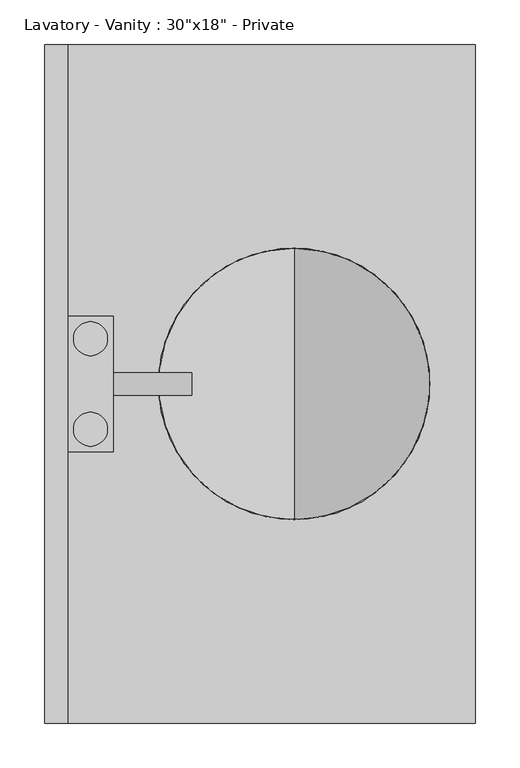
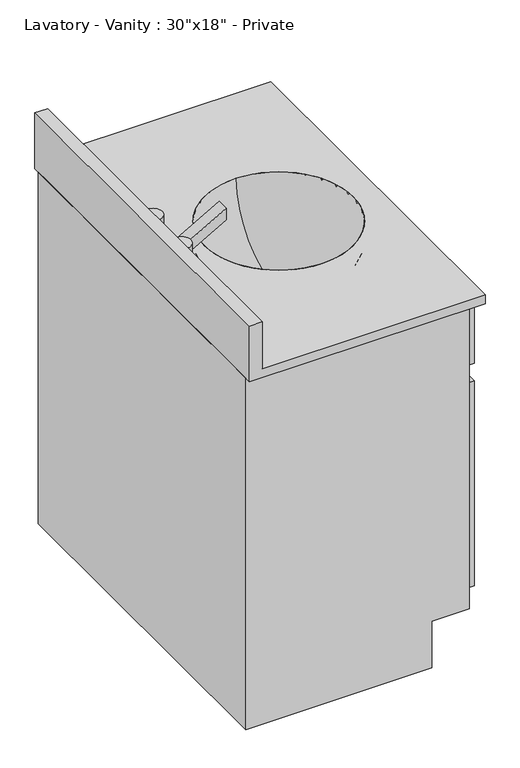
"""IFC4 building model written with IfcOpenShell, lengths in millimetres: flow terminal geometry."""

from ifc_helpers import new_model, si_unit, point, frame, origin, place, context, project, spatial, polyline, circle_curve, ellipse_curve, trimmed, faceted_brep, source, transform, mapped, element, save
from ifc_brep_helpers import plane_surface, cylinder_surface, revolved_surface, advanced_brep


def flow_terminal_0fc377b3(model_context):
    return source(origin(), model_context, "Body", "SolidModel", [
        advanced_brep(
        [(32.54375, -50.8, 844.55), (70.64375, -50.8, 844.55), (32.54375, 50.8, 844.55), (70.64375, 50.8, 844.55), (70.64375, -50.8, 806.45), (32.54375, -50.8, 806.45), (70.64375, 50.8, 806.45), (32.54375, 50.8, 806.45), (76.99375, -76.2, 806.45), (76.99375, -12.7, 806.45), (76.99375, 12.7, 806.45), (76.99375, 76.2, 806.45), (26.19375, 76.2, 806.45), (26.19375, -76.2, 806.45), (76.99375, 76.2, 781.05), (76.99375, 12.7, 781.05), (76.99375, -12.7, 781.05), (76.99375, -76.2, 781.05), (26.19375, -76.2, 781.05), (26.19375, 76.2, 781.05), (165.1, 12.7, 857.25), (165.1, 12.7, 831.85), (165.1, -12.7, 831.85), (165.1, -12.7, 857.25)],
        [
            (0, 1, circle_curve(frame((51.59375, -50.8, 844.55), z_axis=(0.0, 0.0, 1.0), x_axis=(1.0, 0.0, 0.0)), 19.05)),
            (1, 0, circle_curve(frame((51.59375, -50.8, 844.55), z_axis=(0.0, 0.0, 1.0), x_axis=(1.0, 0.0, 0.0)), 19.05)),
            (2, 3, circle_curve(frame((51.59375, 50.8, 844.55), z_axis=(0.0, 0.0, 1.0), x_axis=(1.0, 0.0, 0.0)), 19.05)),
            (3, 2, circle_curve(frame((51.59375, 50.8, 844.55), z_axis=(0.0, 0.0, 1.0), x_axis=(1.0, 0.0, 0.0)), 19.05)),
            (1, 4),
            (4, 5, circle_curve(frame((51.59375, -50.8, 806.45), z_axis=(0.0, 0.0, 1.0), x_axis=(1.0, 0.0, 0.0)), 19.05)),
            (5, 0),
            (5, 4, circle_curve(frame((51.59375, -50.8, 806.45), z_axis=(0.0, 0.0, 1.0), x_axis=(1.0, 0.0, 0.0)), 19.05)),
            (3, 6),
            (6, 7, circle_curve(frame((51.59375, 50.8, 806.45), z_axis=(0.0, 0.0, 1.0), x_axis=(1.0, 0.0, 0.0)), 19.05)),
            (7, 2),
            (7, 6, circle_curve(frame((51.59375, 50.8, 806.45), z_axis=(0.0, 0.0, 1.0), x_axis=(1.0, 0.0, 0.0)), 19.05)),
            (8, 9),
            (9, 10),
            (10, 11),
            (11, 12),
            (12, 13),
            (13, 8),
            (14, 15),
            (15, 16),
            (16, 17),
            (17, 18),
            (18, 19),
            (19, 14),
            (13, 18),
            (17, 8),
            (12, 19),
            (11, 14),
            (10, 15),
            (16, 9),
            (10, 20),
            (20, 21),
            (21, 15),
            (16, 22),
            (22, 23),
            (23, 9),
            (21, 22),
            (20, 23),
        ],
        [
            plane_surface(frame((70.64375, -50.8, 844.55), z_axis=(0.0, 0.0, 1.0), x_axis=(0.0, -1.0, 0.0))),
            cylinder_surface(frame((51.59375, -50.8, 806.45), z_axis=(0.0, 0.0, 1.0), x_axis=(1.0, 0.0, 0.0)), 19.05),
            cylinder_surface(frame((51.59375, 50.8, 0.0), z_axis=(0.0, 0.0, 1.0), x_axis=(1.0, 0.0, 0.0)), 19.05),
            plane_surface(frame((26.19375, -76.2, 806.45), z_axis=(0.0, 0.0, 1.0), x_axis=(-1.0, 0.0, 0.0))),
            plane_surface(frame((26.19375, -76.2, 781.05), z_axis=(0.0, 0.0, -1.0), x_axis=(1.0, 0.0, 0.0))),
            plane_surface(frame((76.99375, -76.2, 806.45), z_axis=(0.0, -1.0, 0.0), x_axis=(0.0, 0.0, -1.0))),
            plane_surface(frame((26.19375, -76.2, 806.45), z_axis=(-1.0, 0.0, 0.0), x_axis=(0.0, 0.0, -1.0))),
            plane_surface(frame((26.19375, 76.2, 806.45), z_axis=(0.0, 1.0, 0.0), x_axis=(0.0, 0.0, -1.0))),
            plane_surface(frame((76.99375, 76.2, 806.45), z_axis=(1.0, 0.0, 0.0), x_axis=(0.0, 0.0, -1.0))),
            plane_surface(frame((76.99375, 12.7, 806.45), z_axis=(0.0, 1.0, 0.0), x_axis=(0.0, 0.0, -1.0))),
            plane_surface(frame((76.99375, -12.7, 806.45), z_axis=(0.0, -1.0, 0.0), x_axis=(0.0, 0.0, 1.0))),
            plane_surface(frame((76.99375, 12.7, 781.05), z_axis=(0.4994972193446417, 0.0, -0.8663154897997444), x_axis=(0.0, -1.0, 0.0))),
            plane_surface(frame((165.1, 12.7, 831.85), z_axis=(1.0, 0.0, 0.0), x_axis=(0.0, -1.0, 0.0))),
            plane_surface(frame((165.1, 12.7, 857.25), z_axis=(-0.4994972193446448, 0.0, 0.8663154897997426), x_axis=(0.0, -1.0, 0.0))),
        ],
        [
            (0, [[1, 2]]),
            (0, [[3, 4]]),
            (1, [[5, 6, 7, -2]]),
            (1, [[-7, 8, -5, -1]]),
            (2, [[9, 10, 11, -4]]),
            (2, [[-11, 12, -9, -3]]),
            (3, [[13, 14, 15, 16, 17, 18], [-8, -6], [-12, -10]]),
            (4, [[19, 20, 21, 22, 23, 24]]),
            (5, [[25, -22, 26, -18]]),
            (6, [[27, -23, -25, -17]]),
            (7, [[28, -24, -27, -16]]),
            (8, [[-15, 29, -19, -28]]),
            (8, [[-21, 30, -13, -26]]),
            (9, [[-29, 31, 32, 33]]),
            (10, [[-30, 34, 35, 36]]),
            (11, [[37, -34, -20, -33]]),
            (12, [[38, -35, -37, -32]]),
            (13, [[-14, -36, -38, -31]]),
        ],
    ),
        faceted_brep([(381.79375, -368.3, 0.0), (0.0, -368.3, 0.0), (0.0, 368.3, 0.0), (381.79375, 368.3, 0.0), (381.79375, -368.3, 101.6), (457.99375, -368.3, 101.6), (457.99375, -368.3, 762.0), (0.0, -368.3, 762.0), (0.0, 368.3, 762.0), (457.99375, 368.3, 762.0), (457.99375, 368.3, 101.6), (381.79375, 368.3, 101.6), (26.19375, -342.9, 762.0), (26.19375, 342.9, 762.0), (445.29375, 342.9, 762.0), (445.29375, -342.9, 762.0), (457.99375, 342.9, 736.6), (457.99375, 342.9, 609.6), (457.99375, -342.9, 609.6), (457.99375, -342.9, 736.6), (457.99375, 342.9, 571.5), (457.99375, 342.9, 368.3), (457.99375, 88.9, 368.3), (457.99375, 88.9, 571.5), (457.99375, 342.9, 330.2), (457.99375, 342.9, 127.0), (457.99375, 88.9, 127.0), (457.99375, 88.9, 330.2), (457.99375, 50.8, 571.5), (457.99375, 50.8, 127.0), (457.99375, -342.9, 127.0), (457.99375, -342.9, 571.5), (445.29375, -342.9, 368.3), (445.29375, 342.9, 368.3), (26.19375, 342.9, 368.3), (26.19375, -342.9, 368.3), (483.39375, -342.9, 736.6), (483.39375, -342.9, 609.6), (483.39375, 342.9, 609.6), (483.39375, 342.9, 736.6), (483.39375, 88.9, 571.5), (483.39375, 88.9, 368.3), (483.39375, 342.9, 368.3), (483.39375, 342.9, 571.5), (483.39375, 88.9, 330.2), (483.39375, 88.9, 127.0), (483.39375, 342.9, 127.0), (483.39375, 342.9, 330.2), (483.39375, -342.9, 571.5), (483.39375, -342.9, 127.0), (483.39375, 50.8, 127.0), (483.39375, 50.8, 571.5)], [[[0, 1, 2, 3]], [[0, 4, 5, 6, 7, 1]], [[1, 7, 8, 2]], [[2, 8, 9, 10, 11, 3]], [[3, 11, 4, 0]], [[6, 9, 8, 7], [12, 13, 14, 15]], [[5, 4, 11, 10]], [[6, 5, 10, 9], [16, 17, 18, 19], [20, 21, 22, 23], [24, 25, 26, 27], [28, 29, 30, 31]], [[32, 33, 34, 35]], [[35, 12, 15, 32]], [[34, 13, 12, 35]], [[33, 14, 13, 34]], [[32, 15, 14, 33]], [[36, 37, 38, 39]], [[40, 41, 42, 43]], [[44, 45, 46, 47]], [[48, 49, 50, 51]], [[39, 16, 19, 36]], [[38, 17, 16, 39]], [[37, 18, 17, 38]], [[36, 19, 18, 37]], [[43, 20, 23, 40]], [[42, 21, 20, 43]], [[41, 22, 21, 42]], [[40, 23, 22, 41]], [[47, 24, 27, 44]], [[46, 25, 24, 47]], [[45, 26, 25, 46]], [[44, 27, 26, 45]], [[51, 28, 31, 48]], [[50, 29, 28, 51]], [[49, 30, 29, 50]], [[48, 31, 30, 49]]]),
        advanced_brep(
        [(280.19375, 0.0, 628.65), (280.19375, 152.4, 781.05), (280.19375, -152.4, 781.05), (280.19375, 44.45, 628.65), (280.19375, 0.0, 628.65), (280.19375, -44.45, 628.65), (280.19375, 157.6028553, 762.0), (280.19375, -157.6028553, 762.0)],
        [
            (0, 1, circle_curve(frame((280.19375, 0.0, 781.05), z_axis=(1.0, 0.0, 0.0), x_axis=(0.0, 1.0, 0.0)), 152.4)),
            (1, 2, circle_curve(frame((280.19375, 0.0, 781.05), z_axis=(0.0, 0.0, 1.0), x_axis=(0.0, -1.0, 0.0)), 152.4)),
            (2, 0, circle_curve(frame((280.19375, 0.0, 781.05), z_axis=(1.0, 0.0, 0.0), x_axis=(0.0, -1.0, 0.0)), 152.4)),
            (2, 1, circle_curve(frame((280.19375, 0.0, 781.05), z_axis=(0.0, 0.0, 1.0), x_axis=(0.0, -1.0, 0.0)), 152.4)),
            (3, 4),
            (4, 5),
            (5, 3, circle_curve(frame((280.19375, 0.0, 628.65), z_axis=(0.0, 0.0, -1.0), x_axis=(0.0, -1.0, 0.0)), 44.45)),
            (3, 5, circle_curve(frame((280.19375, 0.0, 628.65), z_axis=(0.0, 0.0, -1.0), x_axis=(0.0, -1.0, 0.0)), 44.45)),
            (6, 3, circle_curve(frame((280.19375, 0.0, 781.05), z_axis=(-1.0, 0.0, 0.0), x_axis=(0.0, 1.0, 0.0)), 158.75)),
            (5, 7, circle_curve(frame((280.19375, 0.0, 781.05), z_axis=(-1.0, 0.0, 0.0), x_axis=(0.0, -1.0, 0.0)), 158.75)),
            (7, 6, circle_curve(frame((280.19375, 0.0, 762.0), z_axis=(0.0, 0.0, -1.0), x_axis=(0.0, -1.0, 0.0)), 157.6028553)),
            (6, 7, circle_curve(frame((280.19375, 0.0, 762.0), z_axis=(0.0, 0.0, -1.0), x_axis=(0.0, -1.0, 0.0)), 157.6028553)),
            (1, 6),
            (7, 2),
        ],
        [
            revolved_surface(trimmed(ellipse_curve(frame((280.19375, 0.0, 781.05), z_axis=(1.0, 0.0, 0.0), x_axis=(0.0, -1.0, 0.0)), 152.4, 152.4), [point((280.19375, -152.4, 781.05))], [point((280.19375, 0.0, 628.65))], True, "CARTESIAN"), (280.19375, 0.0, 520.7), (0.0, 0.0, 1.0)),
            plane_surface(frame((280.19375, 0.0, 628.65), z_axis=(0.0, 0.0, -1.0), x_axis=(0.0, -1.0, 0.0))),
            revolved_surface(trimmed(ellipse_curve(frame((280.19375, 0.0, 781.05), z_axis=(-1.0, 0.0, 0.0), x_axis=(0.0, -1.0, 0.0)), 158.75, 158.75), [point((280.19375, -44.45, 628.65))], [point((280.19375, -157.6028553, 762.0))], True, "CARTESIAN"), (280.19375, 0.0, 520.7), (0.0, 0.0, 1.0)),
            revolved_surface(polyline([(280.19375, -157.6028553, 762.0), (280.19375, -152.4, 781.05)]), (280.19375, 0.0, 520.7), (0.0, 0.0, 1.0)),
        ],
        [
            (0, [[1, 2, 3]]),
            (0, [[-3, 4, -1]]),
            (1, [[5, 6, 7]]),
            (1, [[-6, -5, 8]]),
            (2, [[9, -7, 10, 11]]),
            (2, [[-10, -8, -9, 12]]),
            (3, [[13, -11, 14, -2]]),
            (3, [[-14, -12, -13, -4]]),
        ],
    ),
        advanced_brep(
        [(483.39375, 381.0, 781.05), (26.19375, 381.0, 781.05), (26.19375, -381.0, 781.05), (483.39375, -381.0, 781.05), (432.59375, 0.0, 781.05), (127.79375, 0.0, 781.05), (483.39375, -381.0, 762.0), (0.0, -381.0, 762.0), (0.0, 381.0, 762.0), (483.39375, 381.0, 762.0), (127.79375, 0.0, 762.0), (432.59375, 0.0, 762.0), (26.19375, -381.0, 882.65), (0.0, -381.0, 882.65), (0.0, 381.0, 882.65), (26.19375, 381.0, 882.65)],
        [
            (0, 1),
            (1, 2),
            (2, 3),
            (3, 0),
            (4, 5, circle_curve(frame((280.19375, 0.0, 781.05), z_axis=(0.0, 0.0, -1.0), x_axis=(1.0, 0.0, 0.0)), 152.4)),
            (5, 4, circle_curve(frame((280.19375, 0.0, 781.05), z_axis=(0.0, 0.0, -1.0), x_axis=(1.0, 0.0, 0.0)), 152.4)),
            (6, 7),
            (7, 8),
            (8, 9),
            (9, 6),
            (10, 11, circle_curve(frame((280.19375, 0.0, 762.0), z_axis=(0.0, 0.0, 1.0), x_axis=(1.0, 0.0, 0.0)), 152.4)),
            (11, 10, circle_curve(frame((280.19375, 0.0, 762.0), z_axis=(0.0, 0.0, 1.0), x_axis=(1.0, 0.0, 0.0)), 152.4)),
            (6, 3),
            (2, 12),
            (12, 13),
            (13, 7),
            (13, 14),
            (14, 8),
            (14, 15),
            (15, 1),
            (0, 9),
            (5, 10),
            (11, 4),
            (12, 15),
        ],
        [
            plane_surface(frame((0.0, -381.0, 781.05), z_axis=(0.0, 0.0, 1.0), x_axis=(-1.0, 0.0, 0.0))),
            plane_surface(frame((0.0, -381.0, 762.0), z_axis=(0.0, 0.0, -1.0), x_axis=(1.0, 0.0, 0.0))),
            plane_surface(frame((483.39375, -381.0, 781.05), z_axis=(0.0, -1.0, 0.0), x_axis=(0.0, 0.0, -1.0))),
            plane_surface(frame((0.0, -381.0, 781.05), z_axis=(-1.0, 0.0, 0.0), x_axis=(0.0, 0.0, -1.0))),
            plane_surface(frame((0.0, 381.0, 781.05), z_axis=(0.0, 1.0, 0.0), x_axis=(0.0, 0.0, -1.0))),
            plane_surface(frame((483.39375, 381.0, 781.05), z_axis=(1.0, 0.0, 0.0), x_axis=(0.0, 0.0, -1.0))),
            revolved_surface(polyline([(432.59375, 0.0, 781.05), (432.59375, 0.0, 762.0)]), (280.19375, 0.0, 762.0), (0.0, 0.0, 1.0)),
            plane_surface(frame((0.0, -381.0, 882.65), z_axis=(0.0, 0.0, 1.0), x_axis=(-1.0, 0.0, 0.0))),
            plane_surface(frame((26.19375, 381.0, 882.65), z_axis=(1.0, 0.0, 0.0), x_axis=(0.0, 0.0, -1.0))),
        ],
        [
            (0, [[1, 2, 3, 4], [5, 6]]),
            (1, [[7, 8, 9, 10], [11, 12]]),
            (2, [[13, -3, 14, 15, 16, -7]]),
            (3, [[17, 18, -8, -16]]),
            (4, [[19, 20, -1, 21, -9, -18]]),
            (5, [[-13, -10, -21, -4]]),
            (6, [[-6, 22, -12, 23]]),
            (6, [[-11, -22, -5, -23]]),
            (7, [[24, -19, -17, -15]]),
            (8, [[-14, -2, -20, -24]]),
        ],
    ),
    ])


if __name__ == "__main__":
    model = new_model("IFC4")
    model_context = context("Model", 3, world=origin())
    ifc_project = project(units=[si_unit("LENGTHUNIT", "METRE", prefix="MILLI")], contexts=[model_context])
    site = spatial("IfcSite", under=ifc_project)
    building = spatial("IfcBuilding", under=site)
    placement = place(None, origin())
    flow_terminal_shape = flow_terminal_0fc377b3(model_context)
    element("IfcFlowTerminal", 1, ObjectType="Lavatory - Vanity : 30\"x18\" - Private", at=placement, inside=building, context=model_context, shape_type="MappedRepresentation", body=[
        mapped(flow_terminal_shape, transform((0.0, 0.0, 0.0), x_axis=(1.0, 0.0, 0.0), y_axis=(0.0, 1.0, 0.0), z_axis=(0.0, 0.0, 1.0))),
    ])
    save(model, "model.ifc")
